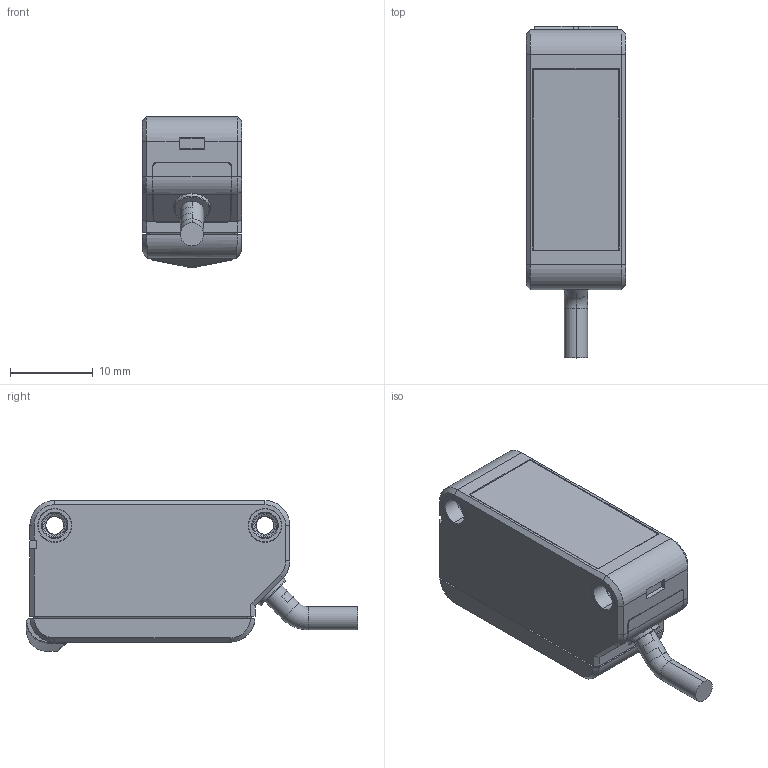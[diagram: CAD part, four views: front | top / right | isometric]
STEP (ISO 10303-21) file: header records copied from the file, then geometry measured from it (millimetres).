
FILE_DESCRIPTION((''),'2;1');
FILE_NAME('0-DUISHE-FASHE_ASM','2023-02-27T10:28:16',('HP'),(''),'CREO PARAMETRIC BY PTC INC, 2019224','CREO PARAMETRIC BY PTC INC, 2019224','');
FILE_SCHEMA(('CONFIG_CONTROL_DESIGN','SHAPE_APPEARANCE_LAYERS_GROUPS'));
Length unit declared in the file: millimetre
Products named in the file (6): 50-0140097-TP; 50-0140098-BP; M3X12; 50-0100016-WIRE; 0001; 0-DUISHE-FASHE_ASM
Assembly tree (6 placements, depth 2):
  0-DUISHE-FASHE_ASM
    50-0140097-TP
    50-0140098-BP
    M3X12  x2
    50-0100016-WIRE
    0001
Bounding box: 12 x 40.11 x 18.22 mm (x, y, z)
Volume: 5864.7 mm3; surface area: 4573.9 mm2
Topology: 6 solids, 6 shells, 472 faces, 1293 edges, 852 vertices
Faces by surface type: plane 264, cylinder 131, bspline 44, cone 16, extrusion 13, torus 4
Entity records: 18593 total; most frequent: CARTESIAN_POINT 7072, ORIENTED_EDGE 1864, DIRECTION 1520, PRESENTATION_STYLE_ASSIGNMENT 952, STYLED_ITEM 938, CURVE_STYLE 933, EDGE_CURVE 932, VECTOR 628
